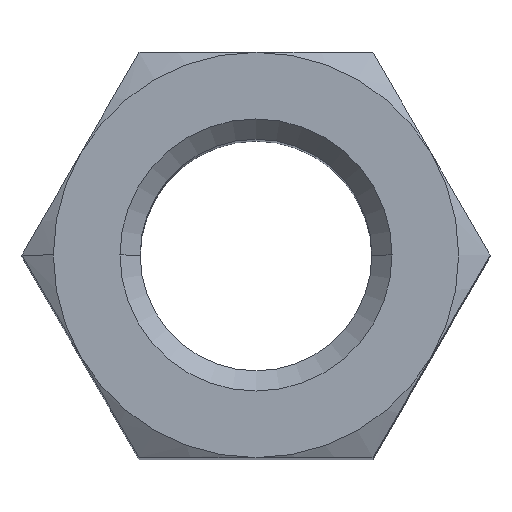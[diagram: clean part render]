
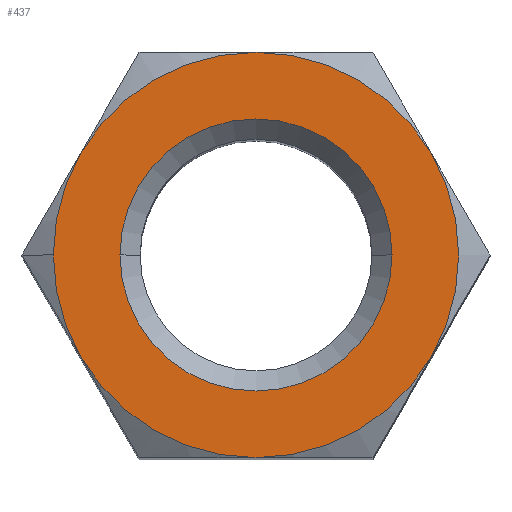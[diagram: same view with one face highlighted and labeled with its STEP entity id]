
A CAD part, top view. The second image highlights one B-rep face of the part: STEP entity #437.
In plain terms, the highlighted planar face has unit normal (0, 0, 1).
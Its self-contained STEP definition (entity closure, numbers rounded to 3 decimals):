
#8 = CARTESIAN_POINT ( 'NONE',  ( 3.031, 1.75, 10. ) ) ;
#29 = AXIS2_PLACEMENT_3D ( 'NONE', #429, #160, #444 ) ;
#54 = CARTESIAN_POINT ( 'NONE',  ( 3.031, -1.75, 10. ) ) ;
#94 = VERTEX_POINT ( 'NONE', #846 ) ;
#107 = DIRECTION ( 'NONE',  ( 0., 0., 1. ) ) ;
#111 = CARTESIAN_POINT ( 'NONE',  ( 0., 0., 10. ) ) ;
#113 = PLANE ( 'NONE',  #760 ) ;
#117 = CARTESIAN_POINT ( 'NONE',  ( 0., 0., 10. ) ) ;
#125 = CIRCLE ( 'NONE', #639, 3.5 ) ;
#130 = CARTESIAN_POINT ( 'NONE',  ( 0., 0., 10. ) ) ;
#132 = CARTESIAN_POINT ( 'NONE',  ( 0., -3.5, 10. ) ) ;
#144 = CARTESIAN_POINT ( 'NONE',  ( 0., 0., 10. ) ) ;
#160 = DIRECTION ( 'NONE',  ( 0., 0., 1. ) ) ;
#198 = EDGE_CURVE ( 'NONE', #501, #873, #530, .T. ) ;
#211 = DIRECTION ( 'NONE',  ( -1., 0., 0. ) ) ;
#221 = EDGE_CURVE ( 'NONE', #877, #94, #883, .T. ) ;
#222 = EDGE_LOOP ( 'NONE', ( #756, #647, #692, #549, #845, #511, #712 ) ) ;
#224 = AXIS2_PLACEMENT_3D ( 'NONE', #111, #251, #258 ) ;
#228 = FACE_OUTER_BOUND ( 'NONE', #222, .T. ) ;
#251 = DIRECTION ( 'NONE',  ( 0., 0., 1. ) ) ;
#255 = AXIS2_PLACEMENT_3D ( 'NONE', #117, #395, #801 ) ;
#258 = DIRECTION ( 'NONE',  ( -1., 0., 0. ) ) ;
#270 = EDGE_CURVE ( 'NONE', #874, #473, #780, .T. ) ;
#271 = CARTESIAN_POINT ( 'NONE',  ( 0., 0., 10. ) ) ;
#274 = ORIENTED_EDGE ( 'NONE', *, *, #809, .T. ) ;
#304 = CIRCLE ( 'NONE', #634, 3.5 ) ;
#308 = VERTEX_POINT ( 'NONE', #54 ) ;
#329 = DIRECTION ( 'NONE',  ( 0., 0., 1. ) ) ;
#346 = CARTESIAN_POINT ( 'NONE',  ( -3.031, 1.75, 10. ) ) ;
#395 = DIRECTION ( 'NONE',  ( 0., 0., -1. ) ) ;
#406 = DIRECTION ( 'NONE',  ( 0., 0., -1. ) ) ;
#408 = CIRCLE ( 'NONE', #224, 3.5 ) ;
#415 = CARTESIAN_POINT ( 'NONE',  ( -2.35, 0., 10. ) ) ;
#424 = EDGE_LOOP ( 'NONE', ( #274, #552 ) ) ;
#429 = CARTESIAN_POINT ( 'NONE',  ( 0., 0., 10. ) ) ;
#433 = DIRECTION ( 'NONE',  ( 0., 0., 1. ) ) ;
#437 = ADVANCED_FACE ( 'NONE', ( #833, #228 ), #113, .F. ) ;
#444 = DIRECTION ( 'NONE',  ( -1., 0., 0. ) ) ;
#448 = AXIS2_PLACEMENT_3D ( 'NONE', #496, #433, #816 ) ;
#457 = EDGE_CURVE ( 'NONE', #877, #491, #408, .T. ) ;
#461 = DIRECTION ( 'NONE',  ( 0., 0., -1. ) ) ;
#473 = VERTEX_POINT ( 'NONE', #132 ) ;
#474 = CIRCLE ( 'NONE', #448, 3.5 ) ;
#475 = DIRECTION ( 'NONE',  ( -1., 0., 0. ) ) ;
#476 = CARTESIAN_POINT ( 'NONE',  ( -3.5, 0., 10. ) ) ;
#482 = AXIS2_PLACEMENT_3D ( 'NONE', #722, #107, #211 ) ;
#484 = DIRECTION ( 'NONE',  ( 0., 0., 1. ) ) ;
#491 = VERTEX_POINT ( 'NONE', #476 ) ;
#496 = CARTESIAN_POINT ( 'NONE',  ( 0., 0., 10. ) ) ;
#501 = VERTEX_POINT ( 'NONE', #415 ) ;
#511 = ORIENTED_EDGE ( 'NONE', *, *, #836, .T. ) ;
#530 = CIRCLE ( 'NONE', #255, 2.35 ) ;
#543 = EDGE_CURVE ( 'NONE', #308, #881, #125, .T. ) ;
#549 = ORIENTED_EDGE ( 'NONE', *, *, #651, .T. ) ;
#552 = ORIENTED_EDGE ( 'NONE', *, *, #198, .T. ) ;
#596 = AXIS2_PLACEMENT_3D ( 'NONE', #660, #406, #784 ) ;
#626 = EDGE_CURVE ( 'NONE', #491, #874, #849, .T. ) ;
#630 = DIRECTION ( 'NONE',  ( 0., 0., -1. ) ) ;
#634 = AXIS2_PLACEMENT_3D ( 'NONE', #130, #329, #475 ) ;
#639 = AXIS2_PLACEMENT_3D ( 'NONE', #271, #484, #747 ) ;
#647 = ORIENTED_EDGE ( 'NONE', *, *, #626, .T. ) ;
#651 = EDGE_CURVE ( 'NONE', #473, #308, #474, .T. ) ;
#660 = CARTESIAN_POINT ( 'NONE',  ( 0., 0., 10. ) ) ;
#692 = ORIENTED_EDGE ( 'NONE', *, *, #270, .T. ) ;
#712 = ORIENTED_EDGE ( 'NONE', *, *, #221, .F. ) ;
#719 = CIRCLE ( 'NONE', #596, 2.35 ) ;
#722 = CARTESIAN_POINT ( 'NONE',  ( 0., 0., 10. ) ) ;
#723 = DIRECTION ( 'NONE',  ( -1., 0., 0. ) ) ;
#724 = AXIS2_PLACEMENT_3D ( 'NONE', #739, #461, #723 ) ;
#739 = CARTESIAN_POINT ( 'NONE',  ( 0., 0., 10. ) ) ;
#747 = DIRECTION ( 'NONE',  ( -1., 0., 0. ) ) ;
#756 = ORIENTED_EDGE ( 'NONE', *, *, #457, .T. ) ;
#759 = CARTESIAN_POINT ( 'NONE',  ( -3.031, -1.75, 10. ) ) ;
#760 = AXIS2_PLACEMENT_3D ( 'NONE', #144, #630, #825 ) ;
#780 = CIRCLE ( 'NONE', #29, 3.5 ) ;
#784 = DIRECTION ( 'NONE',  ( -1., 0., 0. ) ) ;
#801 = DIRECTION ( 'NONE',  ( -1., 0., 0. ) ) ;
#809 = EDGE_CURVE ( 'NONE', #873, #501, #719, .T. ) ;
#816 = DIRECTION ( 'NONE',  ( -1., 0., 0. ) ) ;
#824 = CARTESIAN_POINT ( 'NONE',  ( 2.35, 0., 10. ) ) ;
#825 = DIRECTION ( 'NONE',  ( 1., 0., 0. ) ) ;
#833 = FACE_BOUND ( 'NONE', #424, .T. ) ;
#836 = EDGE_CURVE ( 'NONE', #881, #94, #304, .T. ) ;
#845 = ORIENTED_EDGE ( 'NONE', *, *, #543, .T. ) ;
#846 = CARTESIAN_POINT ( 'NONE',  ( 0., 3.5, 10. ) ) ;
#849 = CIRCLE ( 'NONE', #482, 3.5 ) ;
#873 = VERTEX_POINT ( 'NONE', #824 ) ;
#874 = VERTEX_POINT ( 'NONE', #759 ) ;
#877 = VERTEX_POINT ( 'NONE', #346 ) ;
#881 = VERTEX_POINT ( 'NONE', #8 ) ;
#883 = CIRCLE ( 'NONE', #724, 3.5 ) ;
